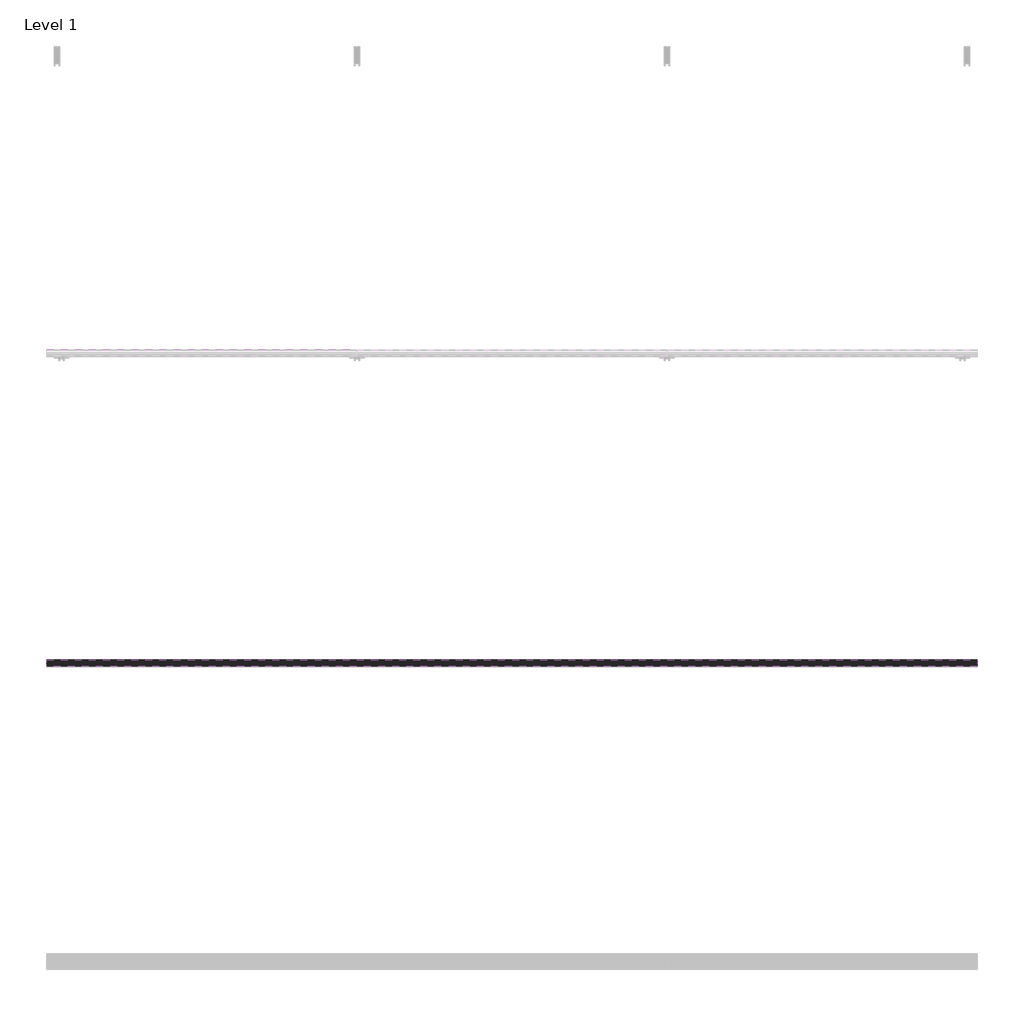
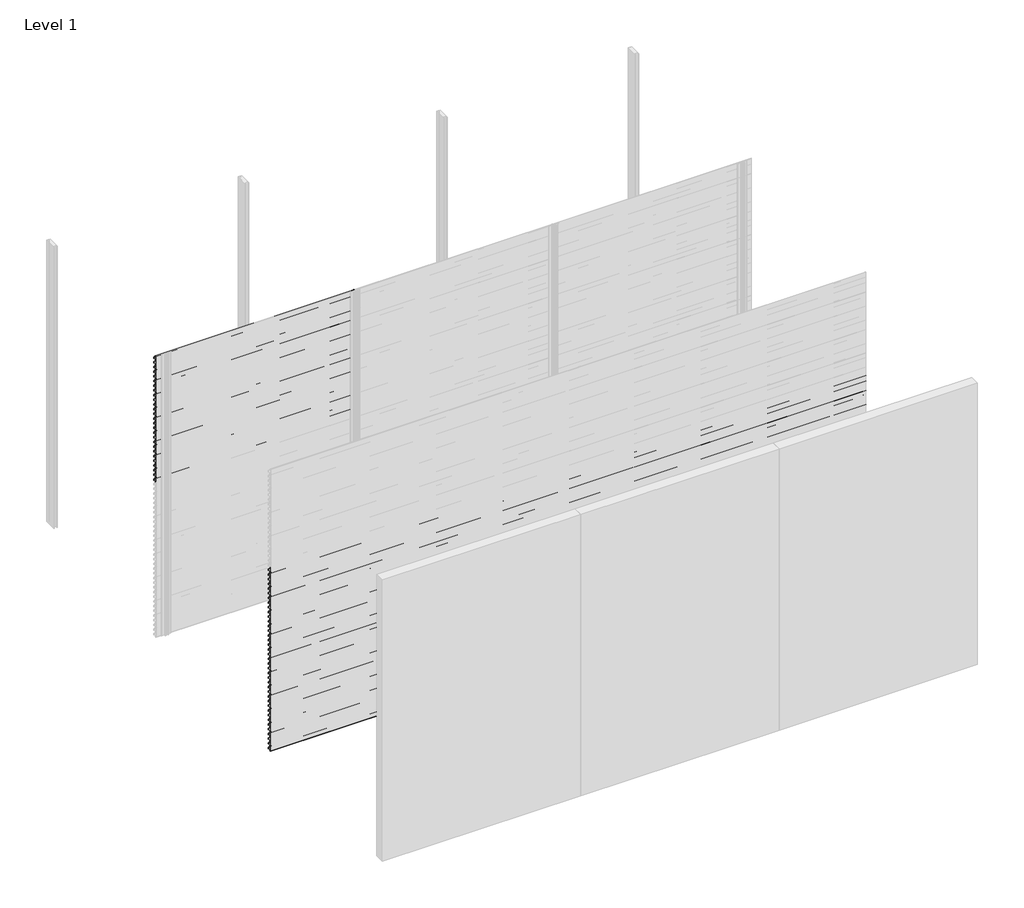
# One storey, part 3 of 38: 66 proxies.
"""IFC4 building model written with IfcOpenShell, lengths in millimetres."""

from ifc_helpers import new_model, si_unit, frame, origin, place, context, project, spatial, polyline, outline, extrude, element, save

model = new_model("IFC4")

# Units and contexts
model_context = context("Model", 3, world=origin())
ifc_project = project(units=[si_unit("LENGTHUNIT", "METRE", prefix="MILLI")], contexts=[model_context])

# Site, building, storey
site = spatial("IfcSite", under=ifc_project)
building = spatial("IfcBuilding", under=site)
storey = spatial("IfcBuildingStorey", under=building, Name="Level 1", Elevation=0.0)

# Proxies
placement = place(None, origin())
element("IfcBuildingElementProxy", 1, Name="Wall Sweeps", at=placement, inside=storey, context=model_context, shape_type="SweptSolid", body=[
    extrude(outline(polyline([(-53996.75, 3000.0), (-53996.75, 2989.19656), (-53974.6057113, 2976.4115489), (-53957.0, 2959.0472005), (-53957.0, 2944.0472005), (-53958.3, 2945.0268207), (-53958.3, 2958.5034593), (-53969.4914725, 2969.541504), (-53994.2797376, 2940.0), (-53995.9767671, 2940.0), (-53970.4200307, 2970.4573323), (-53975.3999793, 2975.3690091), (-53998.0, 2988.4171371), (-53998.0, 3000.0), (-53996.75, 3000.0)])), frame((0.0, 0.0, 0.0), z_axis=(1.0, 0.0, 0.0), x_axis=(0.0, 1.0, 0.0)), (0.0, 0.0, 1.0), 2000.0),
])
element("IfcBuildingElementProxy", 2, Name="Wall Sweeps", at=placement, inside=storey, context=model_context, shape_type="SweptSolid", body=[
    extrude(outline(polyline([(-53996.75, 2950.0), (-53996.75, 2939.19656), (-53974.6057113, 2926.4115489), (-53957.0, 2909.0472005), (-53957.0, 2894.0472005), (-53958.3, 2895.0268207), (-53958.3, 2908.5034593), (-53969.4914725, 2919.541504), (-53994.2797376, 2890.0), (-53995.9767671, 2890.0), (-53970.4200307, 2920.4573323), (-53975.3999793, 2925.3690091), (-53998.0, 2938.4171371), (-53998.0, 2950.0), (-53996.75, 2950.0)])), frame((0.0, 0.0, 0.0), z_axis=(1.0, 0.0, 0.0), x_axis=(0.0, 1.0, 0.0)), (0.0, 0.0, 1.0), 2000.0),
])
element("IfcBuildingElementProxy", 3, Name="Wall Sweeps", at=placement, inside=storey, context=model_context, shape_type="SweptSolid", body=[
    extrude(outline(polyline([(-53996.75, 2900.0), (-53996.75, 2889.19656), (-53974.6057113, 2876.4115489), (-53957.0, 2859.0472005), (-53957.0, 2844.0472005), (-53958.3, 2845.0268207), (-53958.3, 2858.5034593), (-53969.4914725, 2869.541504), (-53994.2797376, 2840.0), (-53995.9767671, 2840.0), (-53970.4200307, 2870.4573323), (-53975.3999793, 2875.3690091), (-53998.0, 2888.4171371), (-53998.0, 2900.0), (-53996.75, 2900.0)])), frame((0.0, 0.0, 0.0), z_axis=(1.0, 0.0, 0.0), x_axis=(0.0, 1.0, 0.0)), (0.0, 0.0, 1.0), 2000.0),
])
element("IfcBuildingElementProxy", 4, Name="Wall Sweeps", at=placement, inside=storey, context=model_context, shape_type="SweptSolid", body=[
    extrude(outline(polyline([(-53996.75, 2850.0), (-53996.75, 2839.19656), (-53974.6057113, 2826.4115489), (-53957.0, 2809.0472005), (-53957.0, 2794.0472005), (-53958.3, 2795.0268207), (-53958.3, 2808.5034593), (-53969.4914725, 2819.541504), (-53994.2797376, 2790.0), (-53995.9767671, 2790.0), (-53970.4200307, 2820.4573323), (-53975.3999793, 2825.3690091), (-53998.0, 2838.4171371), (-53998.0, 2850.0), (-53996.75, 2850.0)])), frame((0.0, 0.0, 0.0), z_axis=(1.0, 0.0, 0.0), x_axis=(0.0, 1.0, 0.0)), (0.0, 0.0, 1.0), 2000.0),
])
element("IfcBuildingElementProxy", 5, Name="Wall Sweeps", at=placement, inside=storey, context=model_context, shape_type="SweptSolid", body=[
    extrude(outline(polyline([(-53996.75, 2800.0), (-53996.75, 2789.19656), (-53974.6057113, 2776.4115489), (-53957.0, 2759.0472005), (-53957.0, 2744.0472005), (-53958.3, 2745.0268207), (-53958.3, 2758.5034593), (-53969.4914725, 2769.541504), (-53994.2797376, 2740.0), (-53995.9767671, 2740.0), (-53970.4200307, 2770.4573323), (-53975.3999793, 2775.3690091), (-53998.0, 2788.4171371), (-53998.0, 2800.0), (-53996.75, 2800.0)])), frame((0.0, 0.0, 0.0), z_axis=(1.0, 0.0, 0.0), x_axis=(0.0, 1.0, 0.0)), (0.0, 0.0, 1.0), 2000.0),
])
element("IfcBuildingElementProxy", 6, Name="Wall Sweeps", at=placement, inside=storey, context=model_context, shape_type="SweptSolid", body=[
    extrude(outline(polyline([(-53996.75, 2750.0), (-53996.75, 2739.19656), (-53974.6057113, 2726.4115489), (-53957.0, 2709.0472005), (-53957.0, 2694.0472005), (-53958.3, 2695.0268207), (-53958.3, 2708.5034593), (-53969.4914725, 2719.541504), (-53994.2797376, 2690.0), (-53995.9767671, 2690.0), (-53970.4200307, 2720.4573323), (-53975.3999793, 2725.3690091), (-53998.0, 2738.4171371), (-53998.0, 2750.0), (-53996.75, 2750.0)])), frame((0.0, 0.0, 0.0), z_axis=(1.0, 0.0, 0.0), x_axis=(0.0, 1.0, 0.0)), (0.0, 0.0, 1.0), 2000.0),
])
element("IfcBuildingElementProxy", 7, Name="Wall Sweeps", at=placement, inside=storey, context=model_context, shape_type="SweptSolid", body=[
    extrude(outline(polyline([(-53996.75, 2700.0), (-53996.75, 2689.19656), (-53974.6057113, 2676.4115489), (-53957.0, 2659.0472005), (-53957.0, 2644.0472005), (-53958.3, 2645.0268207), (-53958.3, 2658.5034593), (-53969.4914725, 2669.541504), (-53994.2797376, 2640.0), (-53995.9767671, 2640.0), (-53970.4200307, 2670.4573323), (-53975.3999793, 2675.3690091), (-53998.0, 2688.4171371), (-53998.0, 2700.0), (-53996.75, 2700.0)])), frame((0.0, 0.0, 0.0), z_axis=(1.0, 0.0, 0.0), x_axis=(0.0, 1.0, 0.0)), (0.0, 0.0, 1.0), 2000.0),
])
element("IfcBuildingElementProxy", 8, Name="Wall Sweeps", at=placement, inside=storey, context=model_context, shape_type="SweptSolid", body=[
    extrude(outline(polyline([(-53996.75, 2650.0), (-53996.75, 2639.19656), (-53974.6057113, 2626.4115489), (-53957.0, 2609.0472005), (-53957.0, 2594.0472005), (-53958.3, 2595.0268207), (-53958.3, 2608.5034593), (-53969.4914725, 2619.541504), (-53994.2797376, 2590.0), (-53995.9767671, 2590.0), (-53970.4200307, 2620.4573323), (-53975.3999793, 2625.3690091), (-53998.0, 2638.4171371), (-53998.0, 2650.0), (-53996.75, 2650.0)])), frame((0.0, 0.0, 0.0), z_axis=(1.0, 0.0, 0.0), x_axis=(0.0, 1.0, 0.0)), (0.0, 0.0, 1.0), 2000.0),
])
element("IfcBuildingElementProxy", 9, Name="Wall Sweeps", at=placement, inside=storey, context=model_context, shape_type="SweptSolid", body=[
    extrude(outline(polyline([(-53996.75, 2600.0), (-53996.75, 2589.19656), (-53974.6057113, 2576.4115489), (-53957.0, 2559.0472005), (-53957.0, 2544.0472005), (-53958.3, 2545.0268207), (-53958.3, 2558.5034593), (-53969.4914725, 2569.541504), (-53994.2797376, 2540.0), (-53995.9767671, 2540.0), (-53970.4200307, 2570.4573323), (-53975.3999793, 2575.3690091), (-53998.0, 2588.4171371), (-53998.0, 2600.0), (-53996.75, 2600.0)])), frame((0.0, 0.0, 0.0), z_axis=(1.0, 0.0, 0.0), x_axis=(0.0, 1.0, 0.0)), (0.0, 0.0, 1.0), 2000.0),
])
element("IfcBuildingElementProxy", 10, Name="Wall Sweeps", at=placement, inside=storey, context=model_context, shape_type="SweptSolid", body=[
    extrude(outline(polyline([(-53996.75, 2550.0), (-53996.75, 2539.19656), (-53974.6057113, 2526.4115489), (-53957.0, 2509.0472005), (-53957.0, 2494.0472005), (-53958.3, 2495.0268207), (-53958.3, 2508.5034593), (-53969.4914725, 2519.541504), (-53994.2797376, 2490.0), (-53995.9767671, 2490.0), (-53970.4200307, 2520.4573323), (-53975.3999793, 2525.3690091), (-53998.0, 2538.4171371), (-53998.0, 2550.0), (-53996.75, 2550.0)])), frame((0.0, 0.0, 0.0), z_axis=(1.0, 0.0, 0.0), x_axis=(0.0, 1.0, 0.0)), (0.0, 0.0, 1.0), 2000.0),
])
element("IfcBuildingElementProxy", 11, Name="Wall Sweeps", at=placement, inside=storey, context=model_context, shape_type="SweptSolid", body=[
    extrude(outline(polyline([(-53996.75, 2500.0), (-53996.75, 2489.19656), (-53974.6057113, 2476.4115489), (-53957.0, 2459.0472005), (-53957.0, 2444.0472005), (-53958.3, 2445.0268207), (-53958.3, 2458.5034593), (-53969.4914725, 2469.541504), (-53994.2797376, 2440.0), (-53995.9767671, 2440.0), (-53970.4200307, 2470.4573323), (-53975.3999793, 2475.3690091), (-53998.0, 2488.4171371), (-53998.0, 2500.0), (-53996.75, 2500.0)])), frame((0.0, 0.0, 0.0), z_axis=(1.0, 0.0, 0.0), x_axis=(0.0, 1.0, 0.0)), (0.0, 0.0, 1.0), 2000.0),
])
element("IfcBuildingElementProxy", 12, Name="Wall Sweeps", at=placement, inside=storey, context=model_context, shape_type="SweptSolid", body=[
    extrude(outline(polyline([(-53996.75, 2450.0), (-53996.75, 2439.19656), (-53974.6057113, 2426.4115489), (-53957.0, 2409.0472005), (-53957.0, 2394.0472005), (-53958.3, 2395.0268207), (-53958.3, 2408.5034593), (-53969.4914725, 2419.541504), (-53994.2797376, 2390.0), (-53995.9767671, 2390.0), (-53970.4200307, 2420.4573323), (-53975.3999793, 2425.3690091), (-53998.0, 2438.4171371), (-53998.0, 2450.0), (-53996.75, 2450.0)])), frame((0.0, 0.0, 0.0), z_axis=(1.0, 0.0, 0.0), x_axis=(0.0, 1.0, 0.0)), (0.0, 0.0, 1.0), 2000.0),
])
element("IfcBuildingElementProxy", 13, Name="Wall Sweeps", at=placement, inside=storey, context=model_context, shape_type="SweptSolid", body=[
    extrude(outline(polyline([(-53996.75, 2400.0), (-53996.75, 2389.19656), (-53974.6057113, 2376.4115489), (-53957.0, 2359.0472005), (-53957.0, 2344.0472005), (-53958.3, 2345.0268207), (-53958.3, 2358.5034593), (-53969.4914725, 2369.541504), (-53994.2797376, 2340.0), (-53995.9767671, 2340.0), (-53970.4200307, 2370.4573323), (-53975.3999793, 2375.3690091), (-53998.0, 2388.4171371), (-53998.0, 2400.0), (-53996.75, 2400.0)])), frame((0.0, 0.0, 0.0), z_axis=(1.0, 0.0, 0.0), x_axis=(0.0, 1.0, 0.0)), (0.0, 0.0, 1.0), 2000.0),
])
element("IfcBuildingElementProxy", 14, Name="Wall Sweeps", at=placement, inside=storey, context=model_context, shape_type="SweptSolid", body=[
    extrude(outline(polyline([(-53996.75, 2350.0), (-53996.75, 2339.19656), (-53974.6057113, 2326.4115489), (-53957.0, 2309.0472005), (-53957.0, 2294.0472005), (-53958.3, 2295.0268207), (-53958.3, 2308.5034593), (-53969.4914725, 2319.541504), (-53994.2797376, 2290.0), (-53995.9767671, 2290.0), (-53970.4200307, 2320.4573323), (-53975.3999793, 2325.3690091), (-53998.0, 2338.4171371), (-53998.0, 2350.0), (-53996.75, 2350.0)])), frame((0.0, 0.0, 0.0), z_axis=(1.0, 0.0, 0.0), x_axis=(0.0, 1.0, 0.0)), (0.0, 0.0, 1.0), 2000.0),
])
element("IfcBuildingElementProxy", 15, Name="Wall Sweeps", at=placement, inside=storey, context=model_context, shape_type="SweptSolid", body=[
    extrude(outline(polyline([(-53996.75, 2300.0), (-53996.75, 2289.19656), (-53974.6057113, 2276.4115489), (-53957.0, 2259.0472005), (-53957.0, 2244.0472005), (-53958.3, 2245.0268207), (-53958.3, 2258.5034593), (-53969.4914725, 2269.541504), (-53994.2797376, 2240.0), (-53995.9767671, 2240.0), (-53970.4200307, 2270.4573323), (-53975.3999793, 2275.3690091), (-53998.0, 2288.4171371), (-53998.0, 2300.0), (-53996.75, 2300.0)])), frame((0.0, 0.0, 0.0), z_axis=(1.0, 0.0, 0.0), x_axis=(0.0, 1.0, 0.0)), (0.0, 0.0, 1.0), 2000.0),
])
element("IfcBuildingElementProxy", 16, Name="Wall Sweeps", at=placement, inside=storey, context=model_context, shape_type="SweptSolid", body=[
    extrude(outline(polyline([(-53996.75, 2250.0), (-53996.75, 2239.19656), (-53974.6057113, 2226.4115489), (-53957.0, 2209.0472005), (-53957.0, 2194.0472005), (-53958.3, 2195.0268207), (-53958.3, 2208.5034593), (-53969.4914725, 2219.541504), (-53994.2797376, 2190.0), (-53995.9767671, 2190.0), (-53970.4200307, 2220.4573323), (-53975.3999793, 2225.3690091), (-53998.0, 2238.4171371), (-53998.0, 2250.0), (-53996.75, 2250.0)])), frame((0.0, 0.0, 0.0), z_axis=(1.0, 0.0, 0.0), x_axis=(0.0, 1.0, 0.0)), (0.0, 0.0, 1.0), 2000.0),
])
element("IfcBuildingElementProxy", 17, Name="Wall Sweeps", at=placement, inside=storey, context=model_context, shape_type="SweptSolid", body=[
    extrude(outline(polyline([(-53996.75, 2200.0), (-53996.75, 2189.19656), (-53974.6057113, 2176.4115489), (-53957.0, 2159.0472005), (-53957.0, 2144.0472005), (-53958.3, 2145.0268207), (-53958.3, 2158.5034593), (-53969.4914725, 2169.541504), (-53994.2797376, 2140.0), (-53995.9767671, 2140.0), (-53970.4200307, 2170.4573323), (-53975.3999793, 2175.3690091), (-53998.0, 2188.4171371), (-53998.0, 2200.0), (-53996.75, 2200.0)])), frame((0.0, 0.0, 0.0), z_axis=(1.0, 0.0, 0.0), x_axis=(0.0, 1.0, 0.0)), (0.0, 0.0, 1.0), 2000.0),
])
element("IfcBuildingElementProxy", 18, Name="Wall Sweeps", at=placement, inside=storey, context=model_context, shape_type="SweptSolid", body=[
    extrude(outline(polyline([(-53996.75, 2150.0), (-53996.75, 2139.19656), (-53974.6057113, 2126.4115489), (-53957.0, 2109.0472005), (-53957.0, 2094.0472005), (-53958.3, 2095.0268207), (-53958.3, 2108.5034593), (-53969.4914725, 2119.541504), (-53994.2797376, 2090.0), (-53995.9767671, 2090.0), (-53970.4200307, 2120.4573323), (-53975.3999793, 2125.3690091), (-53998.0, 2138.4171371), (-53998.0, 2150.0), (-53996.75, 2150.0)])), frame((0.0, 0.0, 0.0), z_axis=(1.0, 0.0, 0.0), x_axis=(0.0, 1.0, 0.0)), (0.0, 0.0, 1.0), 2000.0),
])
element("IfcBuildingElementProxy", 19, Name="Wall Sweeps", at=placement, inside=storey, context=model_context, shape_type="SweptSolid", body=[
    extrude(outline(polyline([(-53996.75, 2100.0), (-53996.75, 2089.19656), (-53974.6057113, 2076.4115489), (-53957.0, 2059.0472005), (-53957.0, 2044.0472005), (-53958.3, 2045.0268207), (-53958.3, 2058.5034593), (-53969.4914725, 2069.541504), (-53994.2797376, 2040.0), (-53995.9767671, 2040.0), (-53970.4200307, 2070.4573323), (-53975.3999793, 2075.3690091), (-53998.0, 2088.4171371), (-53998.0, 2100.0), (-53996.75, 2100.0)])), frame((0.0, 0.0, 0.0), z_axis=(1.0, 0.0, 0.0), x_axis=(0.0, 1.0, 0.0)), (0.0, 0.0, 1.0), 2000.0),
])
element("IfcBuildingElementProxy", 20, Name="Wall Sweeps", at=placement, inside=storey, context=model_context, shape_type="SweptSolid", body=[
    extrude(outline(polyline([(-53996.75, 2050.0), (-53996.75, 2039.19656), (-53974.6057113, 2026.4115489), (-53957.0, 2009.0472005), (-53957.0, 1994.0472005), (-53958.3, 1995.0268207), (-53958.3, 2008.5034593), (-53969.4914725, 2019.541504), (-53994.2797376, 1990.0), (-53995.9767671, 1990.0), (-53970.4200307, 2020.4573323), (-53975.3999793, 2025.3690091), (-53998.0, 2038.4171371), (-53998.0, 2050.0), (-53996.75, 2050.0)])), frame((0.0, 0.0, 0.0), z_axis=(1.0, 0.0, 0.0), x_axis=(0.0, 1.0, 0.0)), (0.0, 0.0, 1.0), 2000.0),
])
element("IfcBuildingElementProxy", 21, Name="Wall Sweeps", at=placement, inside=storey, context=model_context, shape_type="SweptSolid", body=[
    extrude(outline(polyline([(-53996.75, 2000.0), (-53996.75, 1989.19656), (-53974.6057113, 1976.4115489), (-53957.0, 1959.0472005), (-53957.0, 1944.0472005), (-53958.3, 1945.0268207), (-53958.3, 1958.5034593), (-53969.4914725, 1969.541504), (-53994.2797376, 1940.0), (-53995.9767671, 1940.0), (-53970.4200307, 1970.4573323), (-53975.3999793, 1975.3690091), (-53998.0, 1988.4171371), (-53998.0, 2000.0), (-53996.75, 2000.0)])), frame((0.0, 0.0, 0.0), z_axis=(1.0, 0.0, 0.0), x_axis=(0.0, 1.0, 0.0)), (0.0, 0.0, 1.0), 2000.0),
])
element("IfcBuildingElementProxy", 22, Name="Wall Sweeps", at=placement, inside=storey, context=model_context, shape_type="SweptSolid", body=[
    extrude(outline(polyline([(-53996.75, 1950.0), (-53996.75, 1939.19656), (-53974.6057113, 1926.4115489), (-53957.0, 1909.0472005), (-53957.0, 1894.0472005), (-53958.3, 1895.0268207), (-53958.3, 1908.5034593), (-53969.4914725, 1919.541504), (-53994.2797376, 1890.0), (-53995.9767671, 1890.0), (-53970.4200307, 1920.4573323), (-53975.3999793, 1925.3690091), (-53998.0, 1938.4171371), (-53998.0, 1950.0), (-53996.75, 1950.0)])), frame((0.0, 0.0, 0.0), z_axis=(1.0, 0.0, 0.0), x_axis=(0.0, 1.0, 0.0)), (0.0, 0.0, 1.0), 2000.0),
])
element("IfcBuildingElementProxy", 23, Name="Wall Sweeps", at=placement, inside=storey, context=model_context, shape_type="SweptSolid", body=[
    extrude(outline(polyline([(-53996.75, 1900.0), (-53996.75, 1889.19656), (-53974.6057113, 1876.4115489), (-53957.0, 1859.0472005), (-53957.0, 1844.0472005), (-53958.3, 1845.0268207), (-53958.3, 1858.5034593), (-53969.4914725, 1869.541504), (-53994.2797376, 1840.0), (-53995.9767671, 1840.0), (-53970.4200307, 1870.4573323), (-53975.3999793, 1875.3690091), (-53998.0, 1888.4171371), (-53998.0, 1900.0), (-53996.75, 1900.0)])), frame((0.0, 0.0, 0.0), z_axis=(1.0, 0.0, 0.0), x_axis=(0.0, 1.0, 0.0)), (0.0, 0.0, 1.0), 2000.0),
])
element("IfcBuildingElementProxy", 24, Name="Wall Sweeps", at=placement, inside=storey, context=model_context, shape_type="SweptSolid", body=[
    extrude(outline(polyline([(-53996.75, 1850.0), (-53996.75, 1839.19656), (-53974.6057113, 1826.4115489), (-53957.0, 1809.0472005), (-53957.0, 1794.0472005), (-53958.3, 1795.0268207), (-53958.3, 1808.5034593), (-53969.4914725, 1819.541504), (-53994.2797376, 1790.0), (-53995.9767671, 1790.0), (-53970.4200307, 1820.4573323), (-53975.3999793, 1825.3690091), (-53998.0, 1838.4171371), (-53998.0, 1850.0), (-53996.75, 1850.0)])), frame((0.0, 0.0, 0.0), z_axis=(1.0, 0.0, 0.0), x_axis=(0.0, 1.0, 0.0)), (0.0, 0.0, 1.0), 2000.0),
])
element("IfcBuildingElementProxy", 25, Name="Wall Sweeps", at=placement, inside=storey, context=model_context, shape_type="SweptSolid", body=[
    extrude(outline(polyline([(-53996.75, 1800.0), (-53996.75, 1789.19656), (-53974.6057113, 1776.4115489), (-53957.0, 1759.0472005), (-53957.0, 1744.0472005), (-53958.3, 1745.0268207), (-53958.3, 1758.5034593), (-53969.4914725, 1769.541504), (-53994.2797376, 1740.0), (-53995.9767671, 1740.0), (-53970.4200307, 1770.4573323), (-53975.3999793, 1775.3690091), (-53998.0, 1788.4171371), (-53998.0, 1800.0), (-53996.75, 1800.0)])), frame((0.0, 0.0, 0.0), z_axis=(1.0, 0.0, 0.0), x_axis=(0.0, 1.0, 0.0)), (0.0, 0.0, 1.0), 2000.0),
])
element("IfcBuildingElementProxy", 26, Name="Wall Sweeps", at=placement, inside=storey, context=model_context, shape_type="SweptSolid", body=[
    extrude(outline(polyline([(-53996.75, 1750.0), (-53996.75, 1739.19656), (-53974.6057113, 1726.4115489), (-53957.0, 1709.0472005), (-53957.0, 1694.0472005), (-53958.3, 1695.0268207), (-53958.3, 1708.5034593), (-53969.4914725, 1719.541504), (-53994.2797376, 1690.0), (-53995.9767671, 1690.0), (-53970.4200307, 1720.4573323), (-53975.3999793, 1725.3690091), (-53998.0, 1738.4171371), (-53998.0, 1750.0), (-53996.75, 1750.0)])), frame((0.0, 0.0, 0.0), z_axis=(1.0, 0.0, 0.0), x_axis=(0.0, 1.0, 0.0)), (0.0, 0.0, 1.0), 2000.0),
])
element("IfcBuildingElementProxy", 27, Name="Wall Sweeps", at=placement, inside=storey, context=model_context, shape_type="SweptSolid", body=[
    extrude(outline(polyline([(-53996.75, 1700.0), (-53996.75, 1689.19656), (-53974.6057113, 1676.4115489), (-53957.0, 1659.0472005), (-53957.0, 1644.0472005), (-53958.3, 1645.0268207), (-53958.3, 1658.5034593), (-53969.4914725, 1669.541504), (-53994.2797376, 1640.0), (-53995.9767671, 1640.0), (-53970.4200307, 1670.4573323), (-53975.3999793, 1675.3690091), (-53998.0, 1688.4171371), (-53998.0, 1700.0), (-53996.75, 1700.0)])), frame((0.0, 0.0, 0.0), z_axis=(1.0, 0.0, 0.0), x_axis=(0.0, 1.0, 0.0)), (0.0, 0.0, 1.0), 2000.0),
])
element("IfcBuildingElementProxy", 28, Name="Wall Sweeps", at=placement, inside=storey, context=model_context, shape_type="SweptSolid", body=[
    extrude(outline(polyline([(-55996.75, 1950.0), (-55996.75, 1939.19656), (-55974.6057113, 1926.4115489), (-55957.0, 1909.0472005), (-55957.0, 1894.0472005), (-55958.3, 1895.0268207), (-55958.3, 1908.5034593), (-55969.4914725, 1919.541504), (-55994.2797376, 1890.0), (-55995.9767671, 1890.0), (-55970.4200307, 1920.4573323), (-55975.3999793, 1925.3690091), (-55998.0, 1938.4171371), (-55998.0, 1950.0), (-55996.75, 1950.0)])), frame((0.0, 0.0, 0.0), z_axis=(1.0, 0.0, 0.0), x_axis=(0.0, 1.0, 0.0)), (0.0, 0.0, 1.0), 6000.0),
])
element("IfcBuildingElementProxy", 29, Name="Wall Sweeps", at=placement, inside=storey, context=model_context, shape_type="SweptSolid", body=[
    extrude(outline(polyline([(-55996.75, 1900.0), (-55996.75, 1889.19656), (-55974.6057113, 1876.4115489), (-55957.0, 1859.0472005), (-55957.0, 1844.0472005), (-55958.3, 1845.0268207), (-55958.3, 1858.5034593), (-55969.4914725, 1869.541504), (-55994.2797376, 1840.0), (-55995.9767671, 1840.0), (-55970.4200307, 1870.4573323), (-55975.3999793, 1875.3690091), (-55998.0, 1888.4171371), (-55998.0, 1900.0), (-55996.75, 1900.0)])), frame((0.0, 0.0, 0.0), z_axis=(1.0, 0.0, 0.0), x_axis=(0.0, 1.0, 0.0)), (0.0, 0.0, 1.0), 6000.0),
])
element("IfcBuildingElementProxy", 30, Name="Wall Sweeps", at=placement, inside=storey, context=model_context, shape_type="SweptSolid", body=[
    extrude(outline(polyline([(-55996.75, 1850.0), (-55996.75, 1839.19656), (-55974.6057113, 1826.4115489), (-55957.0, 1809.0472005), (-55957.0, 1794.0472005), (-55958.3, 1795.0268207), (-55958.3, 1808.5034593), (-55969.4914725, 1819.541504), (-55994.2797376, 1790.0), (-55995.9767671, 1790.0), (-55970.4200307, 1820.4573323), (-55975.3999793, 1825.3690091), (-55998.0, 1838.4171371), (-55998.0, 1850.0), (-55996.75, 1850.0)])), frame((0.0, 0.0, 0.0), z_axis=(1.0, 0.0, 0.0), x_axis=(0.0, 1.0, 0.0)), (0.0, 0.0, 1.0), 6000.0),
])
element("IfcBuildingElementProxy", 31, Name="Wall Sweeps", at=placement, inside=storey, context=model_context, shape_type="SweptSolid", body=[
    extrude(outline(polyline([(-55996.75, 1800.0), (-55996.75, 1789.19656), (-55974.6057113, 1776.4115489), (-55957.0, 1759.0472005), (-55957.0, 1744.0472005), (-55958.3, 1745.0268207), (-55958.3, 1758.5034593), (-55969.4914725, 1769.541504), (-55994.2797376, 1740.0), (-55995.9767671, 1740.0), (-55970.4200307, 1770.4573323), (-55975.3999793, 1775.3690091), (-55998.0, 1788.4171371), (-55998.0, 1800.0), (-55996.75, 1800.0)])), frame((0.0, 0.0, 0.0), z_axis=(1.0, 0.0, 0.0), x_axis=(0.0, 1.0, 0.0)), (0.0, 0.0, 1.0), 6000.0),
])
element("IfcBuildingElementProxy", 32, Name="Wall Sweeps", at=placement, inside=storey, context=model_context, shape_type="SweptSolid", body=[
    extrude(outline(polyline([(-55996.75, 1750.0), (-55996.75, 1739.19656), (-55974.6057113, 1726.4115489), (-55957.0, 1709.0472005), (-55957.0, 1694.0472005), (-55958.3, 1695.0268207), (-55958.3, 1708.5034593), (-55969.4914725, 1719.541504), (-55994.2797376, 1690.0), (-55995.9767671, 1690.0), (-55970.4200307, 1720.4573323), (-55975.3999793, 1725.3690091), (-55998.0, 1738.4171371), (-55998.0, 1750.0), (-55996.75, 1750.0)])), frame((0.0, 0.0, 0.0), z_axis=(1.0, 0.0, 0.0), x_axis=(0.0, 1.0, 0.0)), (0.0, 0.0, 1.0), 6000.0),
])
element("IfcBuildingElementProxy", 33, Name="Wall Sweeps", at=placement, inside=storey, context=model_context, shape_type="SweptSolid", body=[
    extrude(outline(polyline([(-55996.75, 1700.0), (-55996.75, 1689.19656), (-55974.6057113, 1676.4115489), (-55957.0, 1659.0472005), (-55957.0, 1644.0472005), (-55958.3, 1645.0268207), (-55958.3, 1658.5034593), (-55969.4914725, 1669.541504), (-55994.2797376, 1640.0), (-55995.9767671, 1640.0), (-55970.4200307, 1670.4573323), (-55975.3999793, 1675.3690091), (-55998.0, 1688.4171371), (-55998.0, 1700.0), (-55996.75, 1700.0)])), frame((0.0, 0.0, 0.0), z_axis=(1.0, 0.0, 0.0), x_axis=(0.0, 1.0, 0.0)), (0.0, 0.0, 1.0), 6000.0),
])
element("IfcBuildingElementProxy", 34, Name="Wall Sweeps", at=placement, inside=storey, context=model_context, shape_type="SweptSolid", body=[
    extrude(outline(polyline([(-55996.75, 1650.0), (-55996.75, 1639.19656), (-55974.6057113, 1626.4115489), (-55957.0, 1609.0472005), (-55957.0, 1594.0472005), (-55958.3, 1595.0268207), (-55958.3, 1608.5034593), (-55969.4914725, 1619.541504), (-55994.2797376, 1590.0), (-55995.9767671, 1590.0), (-55970.4200307, 1620.4573323), (-55975.3999793, 1625.3690091), (-55998.0, 1638.4171371), (-55998.0, 1650.0), (-55996.75, 1650.0)])), frame((0.0, 0.0, 0.0), z_axis=(1.0, 0.0, 0.0), x_axis=(0.0, 1.0, 0.0)), (0.0, 0.0, 1.0), 6000.0),
])
element("IfcBuildingElementProxy", 35, Name="Wall Sweeps", at=placement, inside=storey, context=model_context, shape_type="SweptSolid", body=[
    extrude(outline(polyline([(-55996.75, 1600.0), (-55996.75, 1589.19656), (-55974.6057113, 1576.4115489), (-55957.0, 1559.0472005), (-55957.0, 1544.0472005), (-55958.3, 1545.0268207), (-55958.3, 1558.5034593), (-55969.4914725, 1569.541504), (-55994.2797376, 1540.0), (-55995.9767671, 1540.0), (-55970.4200307, 1570.4573323), (-55975.3999793, 1575.3690091), (-55998.0, 1588.4171371), (-55998.0, 1600.0), (-55996.75, 1600.0)])), frame((0.0, 0.0, 0.0), z_axis=(1.0, 0.0, 0.0), x_axis=(0.0, 1.0, 0.0)), (0.0, 0.0, 1.0), 6000.0),
])
element("IfcBuildingElementProxy", 36, Name="Wall Sweeps", at=placement, inside=storey, context=model_context, shape_type="SweptSolid", body=[
    extrude(outline(polyline([(-55996.75, 1550.0), (-55996.75, 1539.19656), (-55974.6057113, 1526.4115489), (-55957.0, 1509.0472005), (-55957.0, 1494.0472005), (-55958.3, 1495.0268207), (-55958.3, 1508.5034593), (-55969.4914725, 1519.541504), (-55994.2797376, 1490.0), (-55995.9767671, 1490.0), (-55970.4200307, 1520.4573323), (-55975.3999793, 1525.3690091), (-55998.0, 1538.4171371), (-55998.0, 1550.0), (-55996.75, 1550.0)])), frame((0.0, 0.0, 0.0), z_axis=(1.0, 0.0, 0.0), x_axis=(0.0, 1.0, 0.0)), (0.0, 0.0, 1.0), 6000.0),
])
element("IfcBuildingElementProxy", 37, Name="Wall Sweeps", at=placement, inside=storey, context=model_context, shape_type="SweptSolid", body=[
    extrude(outline(polyline([(-55996.75, 1500.0), (-55996.75, 1489.19656), (-55974.6057113, 1476.4115489), (-55957.0, 1459.0472005), (-55957.0, 1444.0472005), (-55958.3, 1445.0268207), (-55958.3, 1458.5034593), (-55969.4914725, 1469.541504), (-55994.2797376, 1440.0), (-55995.9767671, 1440.0), (-55970.4200307, 1470.4573323), (-55975.3999793, 1475.3690091), (-55998.0, 1488.4171371), (-55998.0, 1500.0), (-55996.75, 1500.0)])), frame((0.0, 0.0, 0.0), z_axis=(1.0, 0.0, 0.0), x_axis=(0.0, 1.0, 0.0)), (0.0, 0.0, 1.0), 6000.0),
])
element("IfcBuildingElementProxy", 38, Name="Wall Sweeps", at=placement, inside=storey, context=model_context, shape_type="SweptSolid", body=[
    extrude(outline(polyline([(-55996.75, 1450.0), (-55996.75, 1439.19656), (-55974.6057113, 1426.4115489), (-55957.0, 1409.0472005), (-55957.0, 1394.0472005), (-55958.3, 1395.0268207), (-55958.3, 1408.5034593), (-55969.4914725, 1419.541504), (-55994.2797376, 1390.0), (-55995.9767671, 1390.0), (-55970.4200307, 1420.4573323), (-55975.3999793, 1425.3690091), (-55998.0, 1438.4171371), (-55998.0, 1450.0), (-55996.75, 1450.0)])), frame((0.0, 0.0, 0.0), z_axis=(1.0, 0.0, 0.0), x_axis=(0.0, 1.0, 0.0)), (0.0, 0.0, 1.0), 6000.0),
])
element("IfcBuildingElementProxy", 39, Name="Wall Sweeps", at=placement, inside=storey, context=model_context, shape_type="SweptSolid", body=[
    extrude(outline(polyline([(-55996.75, 1400.0), (-55996.75, 1389.19656), (-55974.6057113, 1376.4115489), (-55957.0, 1359.0472005), (-55957.0, 1344.0472005), (-55958.3, 1345.0268207), (-55958.3, 1358.5034593), (-55969.4914725, 1369.541504), (-55994.2797376, 1340.0), (-55995.9767671, 1340.0), (-55970.4200307, 1370.4573323), (-55975.3999793, 1375.3690091), (-55998.0, 1388.4171371), (-55998.0, 1400.0), (-55996.75, 1400.0)])), frame((0.0, 0.0, 0.0), z_axis=(1.0, 0.0, 0.0), x_axis=(0.0, 1.0, 0.0)), (0.0, 0.0, 1.0), 6000.0),
])
element("IfcBuildingElementProxy", 40, Name="Wall Sweeps", at=placement, inside=storey, context=model_context, shape_type="SweptSolid", body=[
    extrude(outline(polyline([(-55996.75, 1350.0), (-55996.75, 1339.19656), (-55974.6057113, 1326.4115489), (-55957.0, 1309.0472005), (-55957.0, 1294.0472005), (-55958.3, 1295.0268207), (-55958.3, 1308.5034593), (-55969.4914725, 1319.541504), (-55994.2797376, 1290.0), (-55995.9767671, 1290.0), (-55970.4200307, 1320.4573323), (-55975.3999793, 1325.3690091), (-55998.0, 1338.4171371), (-55998.0, 1350.0), (-55996.75, 1350.0)])), frame((0.0, 0.0, 0.0), z_axis=(1.0, 0.0, 0.0), x_axis=(0.0, 1.0, 0.0)), (0.0, 0.0, 1.0), 6000.0),
])
element("IfcBuildingElementProxy", 41, Name="Wall Sweeps", at=placement, inside=storey, context=model_context, shape_type="SweptSolid", body=[
    extrude(outline(polyline([(-55996.75, 1300.0), (-55996.75, 1289.19656), (-55974.6057113, 1276.4115489), (-55957.0, 1259.0472005), (-55957.0, 1244.0472005), (-55958.3, 1245.0268207), (-55958.3, 1258.5034593), (-55969.4914725, 1269.541504), (-55994.2797376, 1240.0), (-55995.9767671, 1240.0), (-55970.4200307, 1270.4573323), (-55975.3999793, 1275.3690091), (-55998.0, 1288.4171371), (-55998.0, 1300.0), (-55996.75, 1300.0)])), frame((0.0, 0.0, 0.0), z_axis=(1.0, 0.0, 0.0), x_axis=(0.0, 1.0, 0.0)), (0.0, 0.0, 1.0), 6000.0),
])
element("IfcBuildingElementProxy", 42, Name="Wall Sweeps", at=placement, inside=storey, context=model_context, shape_type="SweptSolid", body=[
    extrude(outline(polyline([(-55996.75, 1250.0), (-55996.75, 1239.19656), (-55974.6057113, 1226.4115489), (-55957.0, 1209.0472005), (-55957.0, 1194.0472005), (-55958.3, 1195.0268207), (-55958.3, 1208.5034593), (-55969.4914725, 1219.541504), (-55994.2797376, 1190.0), (-55995.9767671, 1190.0), (-55970.4200307, 1220.4573323), (-55975.3999793, 1225.3690091), (-55998.0, 1238.4171371), (-55998.0, 1250.0), (-55996.75, 1250.0)])), frame((0.0, 0.0, 0.0), z_axis=(1.0, 0.0, 0.0), x_axis=(0.0, 1.0, 0.0)), (0.0, 0.0, 1.0), 6000.0),
])
element("IfcBuildingElementProxy", 43, Name="Wall Sweeps", at=placement, inside=storey, context=model_context, shape_type="SweptSolid", body=[
    extrude(outline(polyline([(-55996.75, 1200.0), (-55996.75, 1189.19656), (-55974.6057113, 1176.4115489), (-55957.0, 1159.0472005), (-55957.0, 1144.0472005), (-55958.3, 1145.0268207), (-55958.3, 1158.5034593), (-55969.4914725, 1169.541504), (-55994.2797376, 1140.0), (-55995.9767671, 1140.0), (-55970.4200307, 1170.4573323), (-55975.3999793, 1175.3690091), (-55998.0, 1188.4171371), (-55998.0, 1200.0), (-55996.75, 1200.0)])), frame((0.0, 0.0, 0.0), z_axis=(1.0, 0.0, 0.0), x_axis=(0.0, 1.0, 0.0)), (0.0, 0.0, 1.0), 6000.0),
])
element("IfcBuildingElementProxy", 44, Name="Wall Sweeps", at=placement, inside=storey, context=model_context, shape_type="SweptSolid", body=[
    extrude(outline(polyline([(-55996.75, 1150.0), (-55996.75, 1139.19656), (-55974.6057113, 1126.4115489), (-55957.0, 1109.0472005), (-55957.0, 1094.0472005), (-55958.3, 1095.0268207), (-55958.3, 1108.5034593), (-55969.4914725, 1119.541504), (-55994.2797376, 1090.0), (-55995.9767671, 1090.0), (-55970.4200307, 1120.4573323), (-55975.3999793, 1125.3690091), (-55998.0, 1138.4171371), (-55998.0, 1150.0), (-55996.75, 1150.0)])), frame((0.0, 0.0, 0.0), z_axis=(1.0, 0.0, 0.0), x_axis=(0.0, 1.0, 0.0)), (0.0, 0.0, 1.0), 6000.0),
])
element("IfcBuildingElementProxy", 45, Name="Wall Sweeps", at=placement, inside=storey, context=model_context, shape_type="SweptSolid", body=[
    extrude(outline(polyline([(-55996.75, 1100.0), (-55996.75, 1089.19656), (-55974.6057113, 1076.4115489), (-55957.0, 1059.0472005), (-55957.0, 1044.0472005), (-55958.3, 1045.0268207), (-55958.3, 1058.5034593), (-55969.4914725, 1069.541504), (-55994.2797376, 1040.0), (-55995.9767671, 1040.0), (-55970.4200307, 1070.4573323), (-55975.3999793, 1075.3690091), (-55998.0, 1088.4171371), (-55998.0, 1100.0), (-55996.75, 1100.0)])), frame((0.0, 0.0, 0.0), z_axis=(1.0, 0.0, 0.0), x_axis=(0.0, 1.0, 0.0)), (0.0, 0.0, 1.0), 6000.0),
])
element("IfcBuildingElementProxy", 46, Name="Wall Sweeps", at=placement, inside=storey, context=model_context, shape_type="SweptSolid", body=[
    extrude(outline(polyline([(-55996.75, 1050.0), (-55996.75, 1039.19656), (-55974.6057113, 1026.4115489), (-55957.0, 1009.0472005), (-55957.0, 994.0472005), (-55958.3, 995.0268207), (-55958.3, 1008.5034593), (-55969.4914725, 1019.541504), (-55994.2797376, 990.0), (-55995.9767671, 990.0), (-55970.4200307, 1020.4573323), (-55975.3999793, 1025.3690091), (-55998.0, 1038.4171371), (-55998.0, 1050.0), (-55996.75, 1050.0)])), frame((0.0, 0.0, 0.0), z_axis=(1.0, 0.0, 0.0), x_axis=(0.0, 1.0, 0.0)), (0.0, 0.0, 1.0), 6000.0),
])
element("IfcBuildingElementProxy", 47, Name="Wall Sweeps", at=placement, inside=storey, context=model_context, shape_type="SweptSolid", body=[
    extrude(outline(polyline([(-55996.75, 1000.0), (-55996.75, 989.19656), (-55974.6057113, 976.4115489), (-55957.0, 959.0472005), (-55957.0, 944.0472005), (-55958.3, 945.0268207), (-55958.3, 958.5034593), (-55969.4914725, 969.541504), (-55994.2797376, 940.0), (-55995.9767671, 940.0), (-55970.4200307, 970.4573323), (-55975.3999793, 975.3690091), (-55998.0, 988.4171371), (-55998.0, 1000.0), (-55996.75, 1000.0)])), frame((0.0, 0.0, 0.0), z_axis=(1.0, 0.0, 0.0), x_axis=(0.0, 1.0, 0.0)), (0.0, 0.0, 1.0), 6000.0),
])
element("IfcBuildingElementProxy", 48, Name="Wall Sweeps", at=placement, inside=storey, context=model_context, shape_type="SweptSolid", body=[
    extrude(outline(polyline([(-55996.75, 950.0), (-55996.75, 939.19656), (-55974.6057113, 926.4115489), (-55957.0, 909.0472005), (-55957.0, 894.0472005), (-55958.3, 895.0268207), (-55958.3, 908.5034593), (-55969.4914725, 919.541504), (-55994.2797376, 890.0), (-55995.9767671, 890.0), (-55970.4200307, 920.4573323), (-55975.3999793, 925.3690091), (-55998.0, 938.4171371), (-55998.0, 950.0), (-55996.75, 950.0)])), frame((0.0, 0.0, 0.0), z_axis=(1.0, 0.0, 0.0), x_axis=(0.0, 1.0, 0.0)), (0.0, 0.0, 1.0), 6000.0),
])
element("IfcBuildingElementProxy", 49, Name="Wall Sweeps", at=placement, inside=storey, context=model_context, shape_type="SweptSolid", body=[
    extrude(outline(polyline([(-55996.75, 900.0), (-55996.75, 889.19656), (-55974.6057113, 876.4115489), (-55957.0, 859.0472005), (-55957.0, 844.0472005), (-55958.3, 845.0268207), (-55958.3, 858.5034593), (-55969.4914725, 869.541504), (-55994.2797376, 840.0), (-55995.9767671, 840.0), (-55970.4200307, 870.4573323), (-55975.3999793, 875.3690091), (-55998.0, 888.4171371), (-55998.0, 900.0), (-55996.75, 900.0)])), frame((0.0, 0.0, 0.0), z_axis=(1.0, 0.0, 0.0), x_axis=(0.0, 1.0, 0.0)), (0.0, 0.0, 1.0), 6000.0),
])
element("IfcBuildingElementProxy", 50, Name="Wall Sweeps", at=placement, inside=storey, context=model_context, shape_type="SweptSolid", body=[
    extrude(outline(polyline([(-55996.75, 850.0), (-55996.75, 839.19656), (-55974.6057113, 826.4115489), (-55957.0, 809.0472005), (-55957.0, 794.0472005), (-55958.3, 795.0268207), (-55958.3, 808.5034593), (-55969.4914725, 819.541504), (-55994.2797376, 790.0), (-55995.9767671, 790.0), (-55970.4200307, 820.4573323), (-55975.3999793, 825.3690091), (-55998.0, 838.4171371), (-55998.0, 850.0), (-55996.75, 850.0)])), frame((0.0, 0.0, 0.0), z_axis=(1.0, 0.0, 0.0), x_axis=(0.0, 1.0, 0.0)), (0.0, 0.0, 1.0), 6000.0),
])
element("IfcBuildingElementProxy", 51, Name="Wall Sweeps", at=placement, inside=storey, context=model_context, shape_type="SweptSolid", body=[
    extrude(outline(polyline([(-55996.75, 800.0), (-55996.75, 789.19656), (-55974.6057113, 776.4115489), (-55957.0, 759.0472005), (-55957.0, 744.0472005), (-55958.3, 745.0268207), (-55958.3, 758.5034593), (-55969.4914725, 769.541504), (-55994.2797376, 740.0), (-55995.9767671, 740.0), (-55970.4200307, 770.4573323), (-55975.3999793, 775.3690091), (-55998.0, 788.4171371), (-55998.0, 800.0), (-55996.75, 800.0)])), frame((0.0, 0.0, 0.0), z_axis=(1.0, 0.0, 0.0), x_axis=(0.0, 1.0, 0.0)), (0.0, 0.0, 1.0), 6000.0),
])
element("IfcBuildingElementProxy", 52, Name="Wall Sweeps", at=placement, inside=storey, context=model_context, shape_type="SweptSolid", body=[
    extrude(outline(polyline([(-55996.75, 750.0), (-55996.75, 739.19656), (-55974.6057113, 726.4115489), (-55957.0, 709.0472005), (-55957.0, 694.0472005), (-55958.3, 695.0268207), (-55958.3, 708.5034593), (-55969.4914725, 719.541504), (-55994.2797376, 690.0), (-55995.9767671, 690.0), (-55970.4200307, 720.4573323), (-55975.3999793, 725.3690091), (-55998.0, 738.4171371), (-55998.0, 750.0), (-55996.75, 750.0)])), frame((0.0, 0.0, 0.0), z_axis=(1.0, 0.0, 0.0), x_axis=(0.0, 1.0, 0.0)), (0.0, 0.0, 1.0), 6000.0),
])
element("IfcBuildingElementProxy", 53, Name="Wall Sweeps", at=placement, inside=storey, context=model_context, shape_type="SweptSolid", body=[
    extrude(outline(polyline([(-55996.75, 700.0), (-55996.75, 689.19656), (-55974.6057113, 676.4115489), (-55957.0, 659.0472005), (-55957.0, 644.0472005), (-55958.3, 645.0268207), (-55958.3, 658.5034593), (-55969.4914725, 669.541504), (-55994.2797376, 640.0), (-55995.9767671, 640.0), (-55970.4200307, 670.4573323), (-55975.3999793, 675.3690091), (-55998.0, 688.4171371), (-55998.0, 700.0), (-55996.75, 700.0)])), frame((0.0, 0.0, 0.0), z_axis=(1.0, 0.0, 0.0), x_axis=(0.0, 1.0, 0.0)), (0.0, 0.0, 1.0), 6000.0),
])
element("IfcBuildingElementProxy", 54, Name="Wall Sweeps", at=placement, inside=storey, context=model_context, shape_type="SweptSolid", body=[
    extrude(outline(polyline([(-55996.75, 650.0), (-55996.75, 639.19656), (-55974.6057113, 626.4115489), (-55957.0, 609.0472005), (-55957.0, 594.0472005), (-55958.3, 595.0268207), (-55958.3, 608.5034593), (-55969.4914725, 619.541504), (-55994.2797376, 590.0), (-55995.9767671, 590.0), (-55970.4200307, 620.4573323), (-55975.3999793, 625.3690091), (-55998.0, 638.4171371), (-55998.0, 650.0), (-55996.75, 650.0)])), frame((0.0, 0.0, 0.0), z_axis=(1.0, 0.0, 0.0), x_axis=(0.0, 1.0, 0.0)), (0.0, 0.0, 1.0), 6000.0),
])
element("IfcBuildingElementProxy", 55, Name="Wall Sweeps", at=placement, inside=storey, context=model_context, shape_type="SweptSolid", body=[
    extrude(outline(polyline([(-55996.75, 600.0), (-55996.75, 589.19656), (-55974.6057113, 576.4115489), (-55957.0, 559.0472005), (-55957.0, 544.0472005), (-55958.3, 545.0268207), (-55958.3, 558.5034593), (-55969.4914725, 569.541504), (-55994.2797376, 540.0), (-55995.9767671, 540.0), (-55970.4200307, 570.4573323), (-55975.3999793, 575.3690091), (-55998.0, 588.4171371), (-55998.0, 600.0), (-55996.75, 600.0)])), frame((0.0, 0.0, 0.0), z_axis=(1.0, 0.0, 0.0), x_axis=(0.0, 1.0, 0.0)), (0.0, 0.0, 1.0), 6000.0),
])
element("IfcBuildingElementProxy", 56, Name="Wall Sweeps", at=placement, inside=storey, context=model_context, shape_type="SweptSolid", body=[
    extrude(outline(polyline([(-55996.75, 550.0), (-55996.75, 539.19656), (-55974.6057113, 526.4115489), (-55957.0, 509.0472005), (-55957.0, 494.0472005), (-55958.3, 495.0268207), (-55958.3, 508.5034593), (-55969.4914725, 519.541504), (-55994.2797376, 490.0), (-55995.9767671, 490.0), (-55970.4200307, 520.4573323), (-55975.3999793, 525.3690091), (-55998.0, 538.4171371), (-55998.0, 550.0), (-55996.75, 550.0)])), frame((0.0, 0.0, 0.0), z_axis=(1.0, 0.0, 0.0), x_axis=(0.0, 1.0, 0.0)), (0.0, 0.0, 1.0), 6000.0),
])
element("IfcBuildingElementProxy", 57, Name="Wall Sweeps", at=placement, inside=storey, context=model_context, shape_type="SweptSolid", body=[
    extrude(outline(polyline([(-55996.75, 500.0), (-55996.75, 489.19656), (-55974.6057113, 476.4115489), (-55957.0, 459.0472005), (-55957.0, 444.0472005), (-55958.3, 445.0268207), (-55958.3, 458.5034593), (-55969.4914725, 469.541504), (-55994.2797376, 440.0), (-55995.9767671, 440.0), (-55970.4200307, 470.4573323), (-55975.3999793, 475.3690091), (-55998.0, 488.4171371), (-55998.0, 500.0), (-55996.75, 500.0)])), frame((0.0, 0.0, 0.0), z_axis=(1.0, 0.0, 0.0), x_axis=(0.0, 1.0, 0.0)), (0.0, 0.0, 1.0), 6000.0),
])
element("IfcBuildingElementProxy", 58, Name="Wall Sweeps", at=placement, inside=storey, context=model_context, shape_type="SweptSolid", body=[
    extrude(outline(polyline([(-55996.75, 450.0), (-55996.75, 439.19656), (-55974.6057113, 426.4115489), (-55957.0, 409.0472005), (-55957.0, 394.0472005), (-55958.3, 395.0268207), (-55958.3, 408.5034593), (-55969.4914725, 419.541504), (-55994.2797376, 390.0), (-55995.9767671, 390.0), (-55970.4200307, 420.4573323), (-55975.3999793, 425.3690091), (-55998.0, 438.4171371), (-55998.0, 450.0), (-55996.75, 450.0)])), frame((0.0, 0.0, 0.0), z_axis=(1.0, 0.0, 0.0), x_axis=(0.0, 1.0, 0.0)), (0.0, 0.0, 1.0), 6000.0),
])
element("IfcBuildingElementProxy", 59, Name="Wall Sweeps", at=placement, inside=storey, context=model_context, shape_type="SweptSolid", body=[
    extrude(outline(polyline([(-55996.75, 400.0), (-55996.75, 389.19656), (-55974.6057113, 376.4115489), (-55957.0, 359.0472005), (-55957.0, 344.0472005), (-55958.3, 345.0268207), (-55958.3, 358.5034593), (-55969.4914725, 369.541504), (-55994.2797376, 340.0), (-55995.9767671, 340.0), (-55970.4200307, 370.4573323), (-55975.3999793, 375.3690091), (-55998.0, 388.4171371), (-55998.0, 400.0), (-55996.75, 400.0)])), frame((0.0, 0.0, 0.0), z_axis=(1.0, 0.0, 0.0), x_axis=(0.0, 1.0, 0.0)), (0.0, 0.0, 1.0), 6000.0),
])
element("IfcBuildingElementProxy", 60, Name="Wall Sweeps", at=placement, inside=storey, context=model_context, shape_type="SweptSolid", body=[
    extrude(outline(polyline([(-55996.75, 350.0), (-55996.75, 339.19656), (-55974.6057113, 326.4115489), (-55957.0, 309.0472005), (-55957.0, 294.0472005), (-55958.3, 295.0268207), (-55958.3, 308.5034593), (-55969.4914725, 319.541504), (-55994.2797376, 290.0), (-55995.9767671, 290.0), (-55970.4200307, 320.4573323), (-55975.3999793, 325.3690091), (-55998.0, 338.4171371), (-55998.0, 350.0), (-55996.75, 350.0)])), frame((0.0, 0.0, 0.0), z_axis=(1.0, 0.0, 0.0), x_axis=(0.0, 1.0, 0.0)), (0.0, 0.0, 1.0), 6000.0),
])
element("IfcBuildingElementProxy", 61, Name="Wall Sweeps", at=placement, inside=storey, context=model_context, shape_type="SweptSolid", body=[
    extrude(outline(polyline([(-55996.75, 300.0), (-55996.75, 289.19656), (-55974.6057113, 276.4115489), (-55957.0, 259.0472005), (-55957.0, 244.0472005), (-55958.3, 245.0268207), (-55958.3, 258.5034593), (-55969.4914725, 269.541504), (-55994.2797376, 240.0), (-55995.9767671, 240.0), (-55970.4200307, 270.4573323), (-55975.3999793, 275.3690091), (-55998.0, 288.4171371), (-55998.0, 300.0), (-55996.75, 300.0)])), frame((0.0, 0.0, 0.0), z_axis=(1.0, 0.0, 0.0), x_axis=(0.0, 1.0, 0.0)), (0.0, 0.0, 1.0), 6000.0),
])
element("IfcBuildingElementProxy", 62, Name="Wall Sweeps", at=placement, inside=storey, context=model_context, shape_type="SweptSolid", body=[
    extrude(outline(polyline([(-55996.75, 250.0), (-55996.75, 239.19656), (-55974.6057113, 226.4115489), (-55957.0, 209.0472005), (-55957.0, 194.0472005), (-55958.3, 195.0268207), (-55958.3, 208.5034593), (-55969.4914725, 219.541504), (-55994.2797376, 190.0), (-55995.9767671, 190.0), (-55970.4200307, 220.4573323), (-55975.3999793, 225.3690091), (-55998.0, 238.4171371), (-55998.0, 250.0), (-55996.75, 250.0)])), frame((0.0, 0.0, 0.0), z_axis=(1.0, 0.0, 0.0), x_axis=(0.0, 1.0, 0.0)), (0.0, 0.0, 1.0), 6000.0),
])
element("IfcBuildingElementProxy", 63, Name="Wall Sweeps", at=placement, inside=storey, context=model_context, shape_type="SweptSolid", body=[
    extrude(outline(polyline([(-55996.75, 200.0), (-55996.75, 189.19656), (-55974.6057113, 176.4115489), (-55957.0, 159.0472005), (-55957.0, 144.0472005), (-55958.3, 145.0268207), (-55958.3, 158.5034593), (-55969.4914725, 169.541504), (-55994.2797376, 140.0), (-55995.9767671, 140.0), (-55970.4200307, 170.4573323), (-55975.3999793, 175.3690091), (-55998.0, 188.4171371), (-55998.0, 200.0), (-55996.75, 200.0)])), frame((0.0, 0.0, 0.0), z_axis=(1.0, 0.0, 0.0), x_axis=(0.0, 1.0, 0.0)), (0.0, 0.0, 1.0), 6000.0),
])
element("IfcBuildingElementProxy", 64, Name="Wall Sweeps", at=placement, inside=storey, context=model_context, shape_type="SweptSolid", body=[
    extrude(outline(polyline([(-55996.75, 150.0), (-55996.75, 139.19656), (-55974.6057113, 126.4115489), (-55957.0, 109.0472005), (-55957.0, 94.0472005), (-55958.3, 95.0268207), (-55958.3, 108.5034593), (-55969.4914725, 119.541504), (-55994.2797376, 90.0), (-55995.9767671, 90.0), (-55970.4200307, 120.4573323), (-55975.3999793, 125.3690091), (-55998.0, 138.4171371), (-55998.0, 150.0), (-55996.75, 150.0)])), frame((0.0, 0.0, 0.0), z_axis=(1.0, 0.0, 0.0), x_axis=(0.0, 1.0, 0.0)), (0.0, 0.0, 1.0), 6000.0),
])
element("IfcBuildingElementProxy", 65, Name="Wall Sweeps", at=placement, inside=storey, context=model_context, shape_type="SweptSolid", body=[
    extrude(outline(polyline([(-55996.75, 100.0), (-55996.75, 89.19656), (-55974.6057113, 76.4115489), (-55957.0, 59.0472005), (-55957.0, 44.0472005), (-55958.3, 45.0268207), (-55958.3, 58.5034593), (-55969.4914725, 69.541504), (-55994.2797376, 40.0), (-55995.9767671, 40.0), (-55970.4200307, 70.4573323), (-55975.3999793, 75.3690091), (-55998.0, 88.4171371), (-55998.0, 100.0), (-55996.75, 100.0)])), frame((0.0, 0.0, 0.0), z_axis=(1.0, 0.0, 0.0), x_axis=(0.0, 1.0, 0.0)), (0.0, 0.0, 1.0), 6000.0),
])
element("IfcBuildingElementProxy", 66, Name="Wall Sweeps", at=placement, inside=storey, context=model_context, shape_type="SweptSolid", body=[
    extrude(outline(polyline([(-55996.75, 50.0), (-55996.75, 39.19656), (-55974.6057113, 26.4115489), (-55957.0, 9.0472005), (-55957.0, -5.9527995), (-55958.3, -4.9731793), (-55958.3, 8.5034593), (-55969.4914725, 19.541504), (-55994.2797376, -10.0), (-55995.9767671, -10.0), (-55970.4200307, 20.4573323), (-55975.3999793, 25.3690091), (-55998.0, 38.4171371), (-55998.0, 50.0), (-55996.75, 50.0)])), frame((0.0, 0.0, 0.0), z_axis=(1.0, 0.0, 0.0), x_axis=(0.0, 1.0, 0.0)), (0.0, 0.0, 1.0), 6000.0),
])

save(model, "model.ifc")
